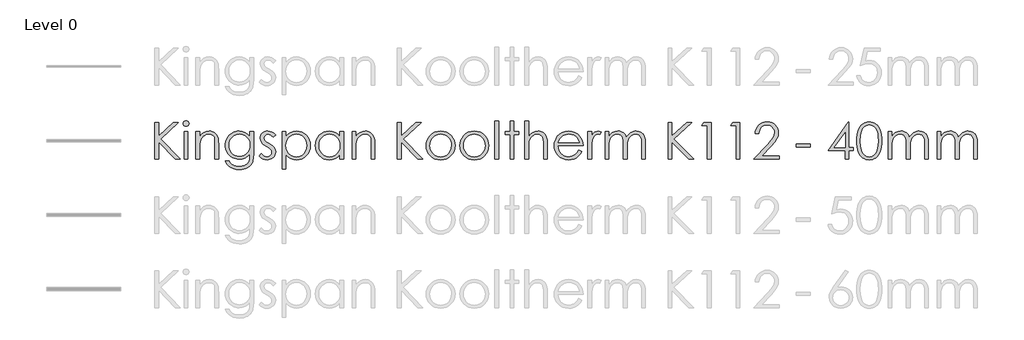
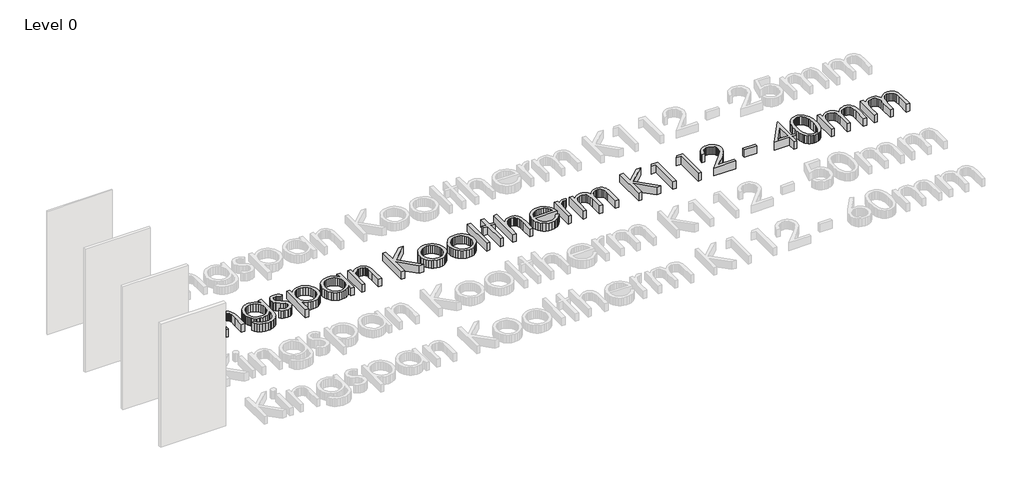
# One storey, part 13 of 14: 1 proxy.
"""IFC4 building model written with IfcOpenShell, lengths in millimetres."""

from ifc_helpers import new_model, si_unit, origin, origin_with_axes, place, context, project, spatial, polyline, outline, extrude, element, save

model = new_model("IFC4")

# Units and contexts
model_context = context("Model", 3, world=origin())
ifc_project = project(units=[si_unit("LENGTHUNIT", "METRE", prefix="MILLI")], contexts=[model_context])

# Site, building, storey
site = spatial("IfcSite", under=ifc_project)
building = spatial("IfcBuilding", under=site)
storey = spatial("IfcBuildingStorey", under=building, Name="Level 0", Elevation=0.0)

# Proxy
placement = place(None, origin())
element("IfcBuildingElementProxy", 1, Name="600mm KI_CenturyGothic", ObjectType="600mm KI_CenturyGothic", at=placement, inside=storey, context=model_context, shape_type="SweptSolid", body=[
    extrude(outline(polyline([(-3852.2663848, 4700.8965983), (-3792.944575, 4700.8965983), (-3792.944575, 4481.683973), (-3555.1938841, 4700.8965983), (-3471.6181051, 4700.8965983), (-3760.9664119, 4433.9484541), (-3441.9572002, 4107.6785001), (-3520.8984627, 4107.6785001), (-3792.944575, 4385.9039675), (-3792.944575, 4107.6785001), (-3852.2663848, 4107.6785001), (-3852.2663848, 4700.8965983)])), origin_with_axes(), (0.0, 0.0, 1.0), 150.0),
    extrude(outline(polyline([(-3348.1854852, 4730.5575033), (-3329.145347, 4727.2747208), (-3313.1176445, 4717.4263735), (-3302.226531, 4702.9821307), (-3298.5961598, 4685.911662), (-3302.226531, 4669.0729191), (-3313.1176445, 4654.7059183), (-3329.145347, 4644.857571), (-3348.1854852, 4641.5747885), (-3366.9938975, 4644.857571), (-3382.9443581, 4654.7059183), (-3393.8354717, 4669.0729191), (-3397.4658428, 4685.911662), (-3393.8354717, 4702.9821307), (-3382.9443581, 4717.4263735), (-3366.9938975, 4727.2747208), (-3348.1854852, 4730.5575033)])), origin_with_axes(), (0.0, 0.0, 1.0), 150.0),
    extrude(outline(polyline([(-3377.6919062, 4552.5920738), (-3318.3700964, 4552.5920738), (-3318.3700964, 4107.6785001), (-3377.6919062, 4107.6785001), (-3377.6919062, 4552.5920738)])), origin_with_axes(), (0.0, 0.0, 1.0), 150.0),
    extrude(outline(polyline([(-3189.8395084, 4552.5920738), (-3130.5176986, 4552.5920738), (-3130.5176986, 4473.4963274), (-3096.9946967, 4513.0055796), (-3060.0730495, 4540.696815), (-3019.7141359, 4557.0334853), (-2975.879335, 4562.4790421), (-2953.4357238, 4560.9004099), (-2932.2955704, 4556.1645135), (-2912.4588747, 4548.2713528), (-2893.9256368, 4537.2209277), (-2877.212412, 4523.4960006), (-2862.835756, 4507.5793333), (-2841.0921499, 4469.1707787), (-2833.6238199, 4444.7912914), (-2828.2892984, 4414.4448643), (-2824.0216812, 4335.8511905), (-2824.0216812, 4107.6785001), (-2883.343491, 4107.6785001), (-2883.343491, 4320.8662542), (-2883.343491, 4423.907002), (-2884.7290183, 4444.7043943), (-2889.8125035, 4462.7596977), (-2898.2849788, 4478.0729123), (-2910.1464442, 4490.644038), (-2924.7403432, 4500.4441091), (-2941.4101193, 4507.4441599), (-2980.977303, 4513.0442006), (-3005.3471351, 4510.8862539), (-3028.4038541, 4504.4124138), (-3050.1474602, 4493.6226803), (-3070.5779533, 4478.5170534), (-3088.6622225, 4460.2348518), (-3103.3671568, 4439.915394), (-3114.6927562, 4417.55868), (-3122.6390208, 4393.1647099), (-3128.5480292, 4346.0857475), (-3130.5176986, 4271.5858965), (-3130.5176986, 4107.6785001), (-3189.8395084, 4107.6785001), (-3189.8395084, 4552.5920738)])), origin_with_axes(), (0.0, 0.0, 1.0), 150.0),
    extrude(outline(polyline([(-2319.7862977, 4552.5920738), (-2260.4644879, 4552.5920738), (-2260.4644879, 4201.604699), (-2264.5196897, 4121.3503235), (-2269.588692, 4090.5500999), (-2276.6852953, 4065.9678526), (-2289.9371156, 4037.3545415), (-2307.2924139, 4012.2267729), (-2328.7511904, 3990.5845469), (-2354.3134448, 3972.4278634), (-2383.3226209, 3958.0656902), (-2415.122162, 3947.8069951), (-2449.7120682, 3941.651778), (-2487.0923395, 3939.6000389), (-2541.0458345, 3943.6166198), (-2589.206184, 3955.6663624), (-2630.260275, 3974.4940853), (-2662.8949946, 3998.8446068), (-2690.2000204, 4032.1938144), (-2715.2650299, 4078.0175952), (-2655.94322, 4078.0175952), (-2642.4355358, 4056.848476), (-2627.0933555, 4038.6048954), (-2609.9166791, 4023.2868532), (-2590.9055067, 4010.8943494), (-2569.7894914, 4001.3308318), (-2546.2982864, 3994.4997477), (-2492.1903075, 3989.0348805), (-2438.5071593, 3994.3645743), (-2415.083541, 4001.0266916), (-2393.93856, 4010.3536559), (-2359.6624492, 4034.3952097), (-2336.8567664, 4063.8823202), (-2329.3884364, 4082.5217658), (-2324.0539149, 4106.2302137), (-2319.7862977, 4168.8541165), (-2319.7862977, 4191.5632468), (-2354.757586, 4155.7809182), (-2396.6420279, 4129.3834852), (-2443.392712, 4113.1047464), (-2492.9627269, 4107.6785001), (-2522.4063889, 4109.5757553), (-2550.9521133, 4115.2675207), (-2578.5999001, 4124.7537964), (-2605.3497494, 4138.0345825), (-2630.1540674, 4154.5257366), (-2651.9652601, 4173.6431168), (-2670.7833277, 4195.3867228), (-2686.6082702, 4219.7565549), (-2699.1456025, 4246.0719183), (-2708.1008399, 4273.6521184), (-2713.4739824, 4302.4971553), (-2715.2650299, 4332.607029), (-2713.3967404, 4362.8955247), (-2707.7918722, 4392.1219437), (-2698.4504251, 4420.286286), (-2685.3723991, 4447.3885517), (-2668.9971079, 4472.5742517), (-2649.7638648, 4494.9888971), (-2627.67267, 4514.632488), (-2602.7235235, 4531.5050242), (-2575.9833294, 4545.056157), (-2548.5189922, 4554.7355376), (-2520.3305117, 4560.543166), (-2491.4178881, 4562.4790421), (-2444.5320306, 4557.5355579), (-2400.8903346, 4542.7051055), (-2359.6045177, 4516.1338782), (-2319.7862977, 4475.9680694), (-2319.7862977, 4552.5920738)]), holes=[polyline([(-2484.1571458, 4513.0442006), (-2529.0154023, 4507.0193293), (-2570.5908765, 4488.9447153), (-2606.2187212, 4460.2300242), (-2633.2340897, 4422.2849212), (-2650.2659375, 4378.0059792), (-2655.94322, 4330.2897708), (-2653.0080263, 4294.3770964), (-2644.2024452, 4261.7182387), (-2629.5264766, 4232.3131977), (-2608.9801206, 4206.1619734), (-2583.7606272, 4184.703197), (-2555.0652466, 4169.3754996), (-2522.8939786, 4160.1788811), (-2487.2468234, 4157.1133416), (-2451.3244937, 4160.154743), (-2419.1001219, 4169.2789472), (-2390.573708, 4184.4859541), (-2365.7452519, 4205.7757637), (-2345.6382095, 4232.0187128), (-2331.2760363, 4262.0851379), (-2322.6587323, 4295.975039), (-2319.7862977, 4333.6884162), (-2325.0773706, 4382.3894593), (-2340.9505892, 4425.6063246), (-2366.4983608, 4461.8327944), (-2400.8130926, 4489.5626508), (-2440.9982119, 4507.1738131), (-2484.1571458, 4513.0442006)])]), origin_with_axes(), (0.0, 0.0, 1.0), 150.0),
    extrude(outline(polyline([(-1904.5336289, 4501.3034257), (-1940.9918246, 4463.609359), (-1962.9575012, 4485.2371022), (-1984.6721416, 4500.6854902), (-2006.1357456, 4509.954523), (-2027.3483133, 4513.0442006), (-2052.181597, 4508.3710632), (-2073.2300256, 4494.3516511), (-2087.5970264, 4474.1142629), (-2092.3860267, 4450.787197), (-2088.4466878, 4429.2366958), (-2076.628671, 4408.7675817), (-2052.0657341, 4386.599145), (-2010.2006027, 4360.877579), (-1958.3326401, 4328.0111336), (-1939.8428507, 4312.1861912), (-1926.315856, 4296.7667689), (-1909.9791857, 4264.0934284), (-1904.5336289, 4227.5579908), (-1906.9474396, 4201.4115941), (-1914.1888714, 4177.3507299), (-1926.2579245, 4155.375398), (-1943.1545989, 4135.4855985), (-1963.6719892, 4118.9944443), (-1986.6031901, 4107.2150485), (-2011.9482016, 4100.147411), (-2039.7070237, 4097.7915318), (-2077.4397114, 4101.6729393), (-2113.3958344, 4113.3171617), (-2145.4512394, 4131.7972958), (-2171.4817731, 4156.1864383), (-2135.7959969, 4196.6612148), (-2114.0041146, 4175.0334717), (-2091.5749863, 4159.5850837), (-2068.5086121, 4150.3160509), (-2044.8049918, 4147.2263733), (-2013.637869, 4152.8650349), (-1987.4914724, 4169.7810198), (-1969.7644472, 4194.3439566), (-1963.8554388, 4222.9234744), (-1967.7561567, 4246.7139919), (-1979.4583106, 4267.7237995), (-2005.0253927, 4289.4287846), (-2050.2119275, 4316.2317378), (-2099.762632, 4346.8967879), (-2117.441381, 4362.0555186), (-2130.3890611, 4377.0983864), (-2146.3781427, 4409.2310334), (-2151.7078365, 4445.689229), (-2149.5305794, 4469.7356104), (-2142.9988078, 4491.6674937), (-2132.1125219, 4511.4848789), (-2116.8717217, 4529.187766), (-2098.309518, 4543.7526993), (-2077.4590218, 4554.1562231), (-2054.3202332, 4560.3983373), (-2028.8931521, 4562.4790421), (-1997.9481, 4558.6555661), (-1966.9064954, 4547.185138), (-1935.7683384, 4528.0677579), (-1904.5336289, 4501.3034257)])), origin_with_axes(), (0.0, 0.0, 1.0), 150.0),
    extrude(outline(polyline([(-1795.7769776, 4552.5920738), (-1736.4551678, 4552.5920738), (-1736.4551678, 4471.4880369), (-1700.9238754, 4511.7310876), (-1660.4490989, 4540.0788795), (-1614.9922173, 4556.8790014), (-1564.5146096, 4562.4790421), (-1520.0618732, 4558.2403906), (-1478.9305402, 4545.5244363), (-1441.1206107, 4524.331179), (-1406.6320845, 4494.6606189), (-1377.9077381, 4459.0231189), (-1357.3903478, 4419.929042), (-1345.0799137, 4377.3783884), (-1340.9764356, 4331.371158), (-1345.0412927, 4284.4708176), (-1357.235864, 4241.2491246), (-1377.5601494, 4201.706079), (-1406.014149, 4165.8416808), (-1440.2130179, 4136.0697406), (-1477.7719111, 4114.8040691), (-1518.6908288, 4102.0446661), (-1562.9697708, 4097.7915318), (-1612.6170277, 4103.256399), (-1658.0545988, 4119.6510008), (-1699.3211052, 4146.8980951), (-1736.4551678, 4184.92044), (-1736.4551678, 3949.4870072), (-1795.7769776, 3949.4870072), (-1795.7769776, 4552.5920738)]), holes=[polyline([(-1568.5311905, 4513.0442006), (-1602.5852307, 4509.7469353), (-1633.8392507, 4499.8551393), (-1662.2932503, 4483.3688128), (-1687.9472295, 4460.2879556), (-1709.1694525, 4432.3022353), (-1724.3281832, 4401.1013192), (-1733.4234216, 4366.6852074), (-1736.4551678, 4329.0538998), (-1731.048232, 4280.1983728), (-1714.8274246, 4236.5180558), (-1688.5265441, 4199.6736505), (-1652.8793888, 4171.3258586), (-1611.4390881, 4153.2512446), (-1567.7587711, 4147.2263733), (-1525.0632888, 4153.2898656), (-1485.0326535, 4171.4803424), (-1450.2544701, 4200.5812433), (-1423.3163435, 4239.3760076), (-1406.05277, 4284.0411593), (-1400.2982454, 4330.7532225), (-1405.9948385, 4377.6970114), (-1423.0846177, 4422.1304373), (-1449.8103289, 4460.4810605), (-1484.414718, 4489.1764411), (-1524.7157001, 4507.0772607), (-1568.5311905, 4513.0442006)])]), origin_with_axes(), (0.0, 0.0, 1.0), 150.0),
    extrude(outline(polyline([(-807.0801472, 4552.5920738), (-807.0801472, 4107.6785001), (-866.401957, 4107.6785001), (-866.401957, 4183.5300851), (-903.4780882, 4145.6815345), (-944.8797679, 4118.9558233), (-990.4525125, 4103.0826047), (-1040.0418379, 4097.7915318), (-1084.3159523, 4102.0446661), (-1125.2203871, 4114.8040691), (-1162.7551422, 4136.0697406), (-1196.9202178, 4165.8416808), (-1225.340424, 4201.706079), (-1245.6405713, 4241.2491246), (-1257.8206597, 4284.4708176), (-1261.8806892, 4331.371158), (-1257.7820388, 4377.3783884), (-1245.4860875, 4419.929042), (-1224.9928353, 4459.0231189), (-1196.3022822, 4494.6606189), (-1161.8475494, 4524.331179), (-1124.061758, 4545.5244363), (-1082.9449079, 4558.2403906), (-1038.4969991, 4562.4790421), (-987.7490446, 4556.8790014), (-942.0990581, 4540.0788795), (-921.2051134, 4527.3918909), (-901.6242816, 4511.7310876), (-866.401957, 4471.4880369), (-866.401957, 4552.5920738), (-807.0801472, 4552.5920738)]), holes=[polyline([(-1034.3259343, 4513.0442006), (-1078.1414247, 4507.0772607), (-1118.4424068, 4489.1764411), (-1153.0467959, 4460.4810605), (-1179.7725071, 4422.1304373), (-1196.8622863, 4377.6970114), (-1202.5588794, 4330.7532225), (-1196.8043548, 4284.0411593), (-1179.5407813, 4239.3760076), (-1152.6026548, 4200.5812433), (-1117.8244713, 4171.4803424), (-1077.6779731, 4153.2898656), (-1034.6349021, 4147.2263733), (-991.0125165, 4153.2512446), (-949.7460102, 4171.3258586), (-914.2726493, 4199.6736505), (-888.0297002, 4236.5180558), (-871.8088928, 4280.1983728), (-866.401957, 4329.0538998), (-869.4337032, 4366.6852074), (-878.5289416, 4401.1013192), (-893.6876723, 4432.3022353), (-914.9098953, 4460.2879556), (-940.5638746, 4483.3688128), (-969.0178742, 4499.8551393), (-1000.2718941, 4509.7469353), (-1034.3259343, 4513.0442006)])]), origin_with_axes(), (0.0, 0.0, 1.0), 150.0),
    extrude(outline(polyline([(-668.662591, 4552.5920738), (-609.3407811, 4552.5920738), (-609.3407811, 4473.4963274), (-575.8177792, 4513.0055796), (-538.896132, 4540.696815), (-498.5372184, 4557.0334853), (-454.7024175, 4562.4790421), (-432.2588064, 4560.9004099), (-411.1186529, 4556.1645135), (-391.2819572, 4548.2713528), (-372.7487193, 4537.2209277), (-356.0354946, 4523.4960006), (-341.6588385, 4507.5793333), (-319.9152324, 4469.1707787), (-312.4469024, 4444.7912914), (-307.1123809, 4414.4448643), (-302.8447637, 4335.8511905), (-302.8447637, 4107.6785001), (-362.1665735, 4107.6785001), (-362.1665735, 4320.8662542), (-362.1665735, 4423.907002), (-363.5521008, 4444.7043943), (-368.635586, 4462.7596977), (-377.1080613, 4478.0729123), (-388.9695267, 4490.644038), (-403.5634257, 4500.4441091), (-420.2332018, 4507.4441599), (-459.8003855, 4513.0442006), (-484.1702176, 4510.8862539), (-507.2269366, 4504.4124138), (-528.9705427, 4493.6226803), (-549.4010358, 4478.5170534), (-567.485305, 4460.2348518), (-582.1902393, 4439.915394), (-593.5158387, 4417.55868), (-601.4621033, 4393.1647099), (-607.3711117, 4346.0857475), (-609.3407811, 4271.5858965), (-609.3407811, 4107.6785001), (-668.662591, 4107.6785001), (-668.662591, 4552.5920738)])), origin_with_axes(), (0.0, 0.0, 1.0), 150.0),
    extrude(outline(polyline([(62.9730635, 4700.8965983), (122.2948734, 4700.8965983), (122.2948734, 4481.683973), (360.0455643, 4700.8965983), (443.6213432, 4700.8965983), (154.2730365, 4433.9484541), (473.2822481, 4107.6785001), (394.3409856, 4107.6785001), (122.2948734, 4385.9039675), (122.2948734, 4107.6785001), (62.9730635, 4107.6785001), (62.9730635, 4700.8965983)])), origin_with_axes(), (0.0, 0.0, 1.0), 150.0),
    extrude(outline(polyline([(760.1588128, 4562.4790421), (809.4681362, 4557.8541809), (854.3553585, 4543.9795975), (894.8204798, 4520.8552917), (930.8635, 4488.4812637), (957.7630055, 4453.2492839), (976.9769381, 4414.908316), (988.5052976, 4373.45836), (992.3480841, 4328.8994159), (988.283227, 4284.0846079), (976.0886558, 4242.1760279), (955.7643703, 4203.1736759), (927.3103707, 4167.0775519), (892.4742558, 4136.7649181), (853.0036246, 4115.1130368), (808.8984769, 4102.1219081), (760.1588128, 4097.7915318), (711.2839754, 4102.1219081), (667.0822753, 4115.1130368), (627.5537126, 4136.7649181), (592.6982872, 4167.0775519), (564.2442876, 4203.1736759), (543.9200022, 4242.1760279), (531.7254309, 4284.0846079), (527.6605738, 4328.8994159), (531.5033603, 4373.2652551), (543.0317198, 4414.5993482), (562.2456524, 4452.9016951), (589.145158, 4488.1722959), (625.2074886, 4520.6814974), (665.7305413, 4543.9023555), (710.7143161, 4557.8348705), (760.1588128, 4562.4790421)]), holes=[polyline([(760.004329, 4513.0442006), (725.7282181, 4509.6696933), (693.9624704, 4499.5461716), (664.7070856, 4482.6736353), (637.962064, 4459.0520846), (615.6584538, 4430.6415336), (599.7273037, 4399.4019965), (590.1686137, 4365.3334734), (586.9823836, 4328.4359643), (592.7948396, 4280.7004454), (610.2322075, 4236.3635719), (637.5758543, 4198.5729529), (673.1071466, 4170.4761972), (714.6439998, 4153.0388293), (760.004329, 4147.2263733), (805.3646581, 4153.0388293), (846.9015113, 4170.4761972), (882.4328037, 4198.5729529), (909.7764504, 4236.3635719), (927.2138183, 4280.7004454), (933.0262743, 4328.4359643), (929.8255614, 4365.3334734), (920.2234227, 4399.4019965), (904.2198583, 4430.6415336), (881.8148681, 4459.0520846), (854.9974321, 4482.6736353), (825.7565303, 4499.5461716), (794.0921625, 4509.6696933), (760.004329, 4513.0442006)])]), origin_with_axes(), (0.0, 0.0, 1.0), 150.0),
    extrude(outline(polyline([(1303.9420695, 4562.4790421), (1353.2513929, 4557.8541809), (1398.1386152, 4543.9795975), (1438.6037365, 4520.8552917), (1474.6467567, 4488.4812637), (1501.5462622, 4453.2492839), (1520.7601948, 4414.908316), (1532.2885543, 4373.45836), (1536.1313408, 4328.8994159), (1532.0664837, 4284.0846079), (1519.8719125, 4242.1760279), (1499.547627, 4203.1736759), (1471.0936274, 4167.0775519), (1436.2575126, 4136.7649181), (1396.7868813, 4115.1130368), (1352.6817336, 4102.1219081), (1303.9420695, 4097.7915318), (1255.0672321, 4102.1219081), (1210.865532, 4115.1130368), (1171.3369693, 4136.7649181), (1136.4815439, 4167.0775519), (1108.0275443, 4203.1736759), (1087.7032589, 4242.1760279), (1075.5086876, 4284.0846079), (1071.4438305, 4328.8994159), (1075.286617, 4373.2652551), (1086.8149766, 4414.5993482), (1106.0289091, 4452.9016951), (1132.9284147, 4488.1722959), (1168.9907453, 4520.6814974), (1209.5137981, 4543.9023555), (1254.4975728, 4557.8348705), (1303.9420695, 4562.4790421)]), holes=[polyline([(1303.7875857, 4513.0442006), (1269.5114748, 4509.6696933), (1237.7457271, 4499.5461716), (1208.4903423, 4482.6736353), (1181.7453207, 4459.0520846), (1159.4417105, 4430.6415336), (1143.5105604, 4399.4019965), (1133.9518704, 4365.3334734), (1130.7656404, 4328.4359643), (1136.5780963, 4280.7004454), (1154.0154643, 4236.3635719), (1181.359111, 4198.5729529), (1216.8904033, 4170.4761972), (1258.4272565, 4153.0388293), (1303.7875857, 4147.2263733), (1349.1479149, 4153.0388293), (1390.684768, 4170.4761972), (1426.2160604, 4198.5729529), (1453.5597071, 4236.3635719), (1470.997075, 4280.7004454), (1476.809531, 4328.4359643), (1473.6088181, 4365.3334734), (1464.0066795, 4399.4019965), (1448.003115, 4430.6415336), (1425.5981249, 4459.0520846), (1398.7806889, 4482.6736353), (1369.539787, 4499.5461716), (1337.8754193, 4509.6696933), (1303.7875857, 4513.0442006)])]), origin_with_axes(), (0.0, 0.0, 1.0), 150.0),
    extrude(outline(polyline([(1635.0010238, 4720.6705349), (1694.3228337, 4720.6705349), (1694.3228337, 4107.6785001), (1635.0010238, 4107.6785001), (1635.0010238, 4720.6705349)])), origin_with_axes(), (0.0, 0.0, 1.0), 150.0),
    extrude(outline(polyline([(1882.1752314, 4720.6705349), (1941.4970413, 4720.6705349), (1941.4970413, 4552.5920738), (2020.5927877, 4552.5920738), (2020.5927877, 4503.1572323), (1941.4970413, 4503.1572323), (1941.4970413, 4107.6785001), (1882.1752314, 4107.6785001), (1882.1752314, 4503.1572323), (1803.079485, 4503.1572323), (1803.079485, 4552.5920738), (1882.1752314, 4552.5920738), (1882.1752314, 4720.6705349)])), origin_with_axes(), (0.0, 0.0, 1.0), 150.0),
    extrude(outline(polyline([(2119.4624707, 4720.6705349), (2178.7842806, 4720.6705349), (2178.7842806, 4471.9514886), (2212.5583188, 4511.6538456), (2249.6151394, 4539.9243956), (2289.9161216, 4556.8403805), (2333.4226442, 4562.4790421), (2355.8662553, 4560.9004099), (2377.0064088, 4556.1645135), (2396.8431044, 4548.2713528), (2415.3763424, 4537.2209277), (2432.0895671, 4523.5104834), (2446.4662232, 4507.6372648), (2468.2098293, 4469.4025045), (2475.6781593, 4445.0954316), (2481.0126808, 4414.7345216), (2485.280298, 4335.8511905), (2485.280298, 4107.6785001), (2425.9584882, 4107.6785001), (2425.9584882, 4320.8662542), (2424.5681332, 4385.247411), (2420.3970685, 4423.907002), (2406.879729, 4462.7596977), (2397.1665551, 4478.0729123), (2385.4837117, 4490.644038), (2371.840854, 4500.4441091), (2356.2476374, 4507.4441599), (2319.2101273, 4513.0442006), (2296.3416854, 4510.8862539), (2274.6994594, 4504.4124138), (2254.2834492, 4493.6226803), (2235.0936547, 4478.5170534), (2218.1052556, 4460.2348518), (2204.2934312, 4439.915394), (2193.6581816, 4417.55868), (2186.1995068, 4393.1647099), (2180.6380871, 4346.3174733), (2178.7842806, 4271.5858965), (2178.7842806, 4107.6785001), (2119.4624707, 4107.6785001), (2119.4624707, 4720.6705349)])), origin_with_axes(), (0.0, 0.0, 1.0), 150.0),
    extrude(outline(polyline([(2991.0605203, 4255.9830247), (3038.950523, 4230.8021523), (3013.3255094, 4188.9177104), (2984.0315038, 4155.9547125), (2950.952643, 4130.8703926), (2913.9730643, 4112.6219843), (2872.4941426, 4101.4991449), (2825.9172528, 4097.7915318), (2774.4258447, 4102.2232881), (2728.8627554, 4115.518557), (2689.227985, 4137.6773385), (2655.5215335, 4168.6996326), (2628.6220279, 4205.3026569), (2609.4080954, 4244.2036288), (2597.8797358, 4285.4025485), (2594.0369493, 4328.8994159), (2597.3197318, 4369.7797126), (2607.1680791, 4408.381372), (2623.5819913, 4444.7043943), (2646.5614684, 4478.7487793), (2682.7493173, 4515.3807692), (2724.5758277, 4541.5464764), (2772.0409998, 4557.2459007), (2825.1448334, 4562.4790421), (2879.7935059, 4557.1107273), (2928.6490329, 4541.0057828), (2971.7114143, 4514.1642087), (3008.9806503, 4476.5860049), (3030.4539096, 4444.414737), (3045.9022976, 4408.458614), (3055.3258143, 4368.7176359), (3058.7244596, 4325.1918028), (2653.3587591, 4325.1918028), (2657.095338, 4287.9370497), (2666.6057518, 4254.1871496), (2681.8900007, 4223.9421025), (2702.9480845, 4197.2019084), (2728.3124066, 4175.3376118), (2756.5153699, 4159.7202571), (2787.5569744, 4150.3498443), (2821.4372203, 4147.2263733), (2854.9602222, 4150.238809), (2887.5563208, 4159.2761159), (2917.2944677, 4173.3148385), (2942.2436143, 4191.331521), (2965.725164, 4217.4972281), (2991.0605203, 4255.9830247)]), holes=[polyline([(2999.4026498, 4374.6266443), (2984.9777175, 4417.1483322), (2965.1844704, 4450.1692615), (2939.0766947, 4475.6977226), (2905.7081767, 4495.742006), (2867.7630738, 4508.7186519), (2827.9255433, 4513.0442006), (2795.503239, 4510.3310774), (2765.4368139, 4502.191708), (2737.726268, 4488.6260923), (2712.3716012, 4469.6342304), (2695.8321708, 4451.820308), (2681.4362043, 4430.0477362), (2669.1837016, 4404.316515), (2659.0746627, 4374.6266443), (2999.4026498, 4374.6266443)])]), origin_with_axes(), (0.0, 0.0, 1.0), 150.0),
    extrude(outline(polyline([(3137.820206, 4552.5920738), (3197.1420159, 4552.5920738), (3197.1420159, 4488.1722959), (3222.6897875, 4521.2125357), (3249.589293, 4544.3271862), (3277.7632906, 4557.9410781), (3307.1345382, 4562.4790421), (3330.4616041, 4558.694187), (3355.3335087, 4547.3396219), (3325.8270877, 4505.3200066), (3297.2475699, 4513.0442006), (3270.8308265, 4507.0965712), (3245.3409863, 4489.2536831), (3223.2884125, 4458.8976007), (3207.183468, 4415.4103886), (3199.6523789, 4357.2858288), (3197.1420159, 4259.8451217), (3197.1420159, 4107.6785001), (3137.820206, 4107.6785001), (3137.820206, 4552.5920738)])), origin_with_axes(), (0.0, 0.0, 1.0), 150.0),
    extrude(outline(polyline([(3414.6553185, 4552.5920738), (3473.9771284, 4552.5920738), (3473.9771284, 4476.4315211), (3503.5607913, 4512.9283377), (3533.9168737, 4538.0705891), (3577.3268439, 4556.3769288), (3622.8995884, 4562.4790421), (3653.7384329, 4559.331433), (3682.9165757, 4549.8886059), (3708.6767627, 4535.2126373), (3729.2617397, 4516.365604), (3746.0425511, 4490.9336953), (3760.3902414, 4456.5031006), (3775.16759, 4480.9018983), (3791.6925376, 4502.191708), (3809.965084, 4520.3725296), (3829.9852293, 4535.4443631), (3851.2798666, 4547.2720352), (3873.375889, 4555.7203723), (3896.2732965, 4560.7893747), (3919.9720892, 4562.4790421), (3962.3006723, 4556.6665861), (3981.4952943, 4549.4010161), (3999.3768034, 4539.2292182), (4015.4914031, 4526.46016), (4029.385297, 4511.4028093), (4050.5109676, 4474.4232306), (4057.8103309, 4451.0478886), (4063.0241619, 4422.4780261), (4067.1952266, 4349.7547397), (4067.1952266, 4107.6785001), (4007.8734168, 4107.6785001), (4007.8734168, 4353.3078689), (4005.4209852, 4414.4255538), (3998.0636904, 4452.8727294), (3984.7587663, 4477.3391139), (3964.4634466, 4496.5144254), (3938.3942919, 4508.9117568), (3907.7678627, 4513.0442006), (3888.1194443, 4511.4945341), (3869.3399976, 4506.8455349), (3834.3880198, 4488.2495379), (3805.6540182, 4459.3031209), (3785.8800816, 4422.0531954), (3779.1889985, 4397.8957787), (3774.4096535, 4366.8252084), (3770.5861775, 4283.9446069), (3770.5861775, 4107.6785001), (3711.2643677, 4107.6785001), (3711.2643677, 4338.0139648), (3708.850557, 4406.469634), (3701.6091252, 4448.7016647), (3688.3621325, 4474.9446137), (3667.9316394, 4495.4330383), (3641.6114484, 4508.64141), (3610.6953619, 4513.0442006), (3573.7544042, 4507.0000188), (3539.2465676, 4488.8674734), (3510.2808401, 4460.500371), (3489.9662099, 4423.7525181), (3477.9743988, 4371.9231764), (3473.9771284, 4298.3116077), (3473.9771284, 4107.6785001), (3414.6553185, 4107.6785001), (3414.6553185, 4552.5920738)])), origin_with_axes(), (0.0, 0.0, 1.0), 150.0),
    extrude(outline(polyline([(4433.0130538, 4700.8965983), (4492.3348637, 4700.8965983), (4492.3348637, 4481.683973), (4730.0855546, 4700.8965983), (4813.6613335, 4700.8965983), (4524.3130268, 4433.9484541), (4843.3222385, 4107.6785001), (4764.3809759, 4107.6785001), (4492.3348637, 4385.9039675), (4492.3348637, 4107.6785001), (4433.0130538, 4107.6785001), (4433.0130538, 4700.8965983)])), origin_with_axes(), (0.0, 0.0, 1.0), 150.0),
    extrude(outline(polyline([(5010.6282802, 4700.8965983), (5125.1008351, 4700.8965983), (5125.1008351, 4107.6785001), (5065.7790253, 4107.6785001), (5065.7790253, 4651.4617568), (4976.7963106, 4651.4617568), (5010.6282802, 4700.8965983)])), origin_with_axes(), (0.0, 0.0, 1.0), 150.0),
    extrude(outline(polyline([(5475.3157905, 4700.8965983), (5589.7883454, 4700.8965983), (5589.7883454, 4107.6785001), (5530.4665356, 4107.6785001), (5530.4665356, 4651.4617568), (5441.4838208, 4651.4617568), (5475.3157905, 4700.8965983)])), origin_with_axes(), (0.0, 0.0, 1.0), 150.0),
    extrude(outline(polyline([(5896.2843628, 4522.9311689), (5836.962553, 4522.9311689), (5841.4474131, 4562.1893848), (5852.5847353, 4597.7786086), (5870.3745196, 4629.6988403), (5894.816766, 4657.9500798), (5924.2121517, 4681.0647303), (5956.8613542, 4697.5751949), (5992.7643733, 4707.4814737), (6031.9212092, 4710.7835666), (6070.3925229, 4707.4863013), (6105.0113948, 4697.5945054), (6135.777825, 4681.1081789), (6162.6918135, 4658.0273217), (6184.5561101, 4630.466432), (6200.1734648, 4600.540008), (6209.5438776, 4568.2480495), (6212.6673485, 4533.5905566), (6206.5845458, 4484.7929611), (6188.3361375, 4439.1236641), (6152.5538088, 4387.236391), (6093.869245, 4319.784867), (5941.084688, 4157.1133416), (6222.5543169, 4157.1133416), (6222.5543169, 4107.6785001), (5817.1886164, 4107.6785001), (6043.1985325, 4348.3643848), (6099.9327373, 4413.8848603), (6132.6446988, 4459.9789879), (6148.1703288, 4497.3447763), (6153.3455387, 4536.6802342), (6151.0958672, 4561.2866196), (6144.3468527, 4584.1260957), (6133.0984952, 4605.1986625), (6117.3507947, 4624.5043198), (6098.3396223, 4640.6237471), (6077.3008489, 4652.1376238), (6054.2344746, 4659.0459498), (6029.1404994, 4661.3487251), (6002.8058255, 4659.0749155), (5978.7980651, 4652.2534867), (5957.1172181, 4640.8844387), (5937.7632845, 4624.9677714), (5921.5279943, 4604.9476262), (5909.2030773, 4581.268144), (5900.7885334, 4553.9293249), (5896.2843628, 4522.9311689)])), origin_with_axes(), (0.0, 0.0, 1.0), 150.0),
    extrude(outline(polyline([(6499.3894294, 4354.8527077), (6726.7897004, 4354.8527077), (6726.7897004, 4305.4178662), (6499.3894294, 4305.4178662), (6499.3894294, 4354.8527077)])), origin_with_axes(), (0.0, 0.0, 1.0), 150.0),
    extrude(outline(polyline([(7337.6189609, 4710.7835666), (7349.6687035, 4710.7835666), (7349.6687035, 4295.5308979), (7418.8774816, 4295.5308979), (7418.8774816, 4246.0960564), (7349.6687035, 4246.0960564), (7349.6687035, 4107.6785001), (7290.3468937, 4107.6785001), (7290.3468937, 4246.0960564), (7013.5117812, 4246.0960564), (7337.6189609, 4710.7835666)]), holes=[polyline([(7290.3468937, 4295.5308979), (7290.3468937, 4542.7051055), (7118.0973678, 4295.5308979), (7290.3468937, 4295.5308979)])]), origin_with_axes(), (0.0, 0.0, 1.0), 150.0),
    extrude(outline(polyline([(7478.1992914, 4404.1330653), (7479.7779236, 4458.5644948), (7484.51382, 4506.4593252), (7492.4069808, 4547.8175564), (7503.4574058, 4582.6391884), (7517.3850931, 4612.2807828), (7533.9100406, 4638.0989012), (7553.0322483, 4660.0935436), (7574.7517163, 4678.26471), (7598.4456813, 4692.4917098), (7623.4913804, 4702.6538525), (7649.8888133, 4708.7511381), (7677.6379802, 4710.7835666), (7705.8409435, 4708.7366552), (7732.6728624, 4702.595921), (7758.1337368, 4692.361364), (7782.2235668, 4678.0329841), (7804.4064864, 4659.6156091), (7824.1466297, 4637.1140665), (7841.4439966, 4610.5283563), (7856.2985871, 4579.8584786), (7868.2276392, 4544.3416691), (7876.7483907, 4503.2151637), (7881.8608416, 4456.4789625), (7883.5649919, 4404.1330653), (7881.8849797, 4351.9464797), (7876.8449431, 4305.3792452), (7868.4448822, 4264.4313618), (7856.6847968, 4229.1028296), (7841.9750349, 4198.5777805), (7824.7259442, 4172.0403465), (7804.9375247, 4149.4905277), (7782.6097765, 4130.928324), (7758.3509797, 4116.4309774), (7732.7694148, 4106.0757299), (7705.8650816, 4099.8625813), (7677.6379802, 4097.7915318), (7649.9129514, 4099.7998222), (7623.5879328, 4105.8246936), (7598.6629243, 4115.8661457), (7575.137926, 4129.9241788), (7553.5632867, 4147.9601718), (7534.4893551, 4169.9355036), (7517.9161314, 4195.8501745), (7503.8436155, 4225.7041842), (7492.6242237, 4260.7237487), (7484.6103725, 4302.1350837), (7479.8020617, 4349.9381893), (7478.1992914, 4404.1330653)]), holes=[polyline([(7537.5211013, 4404.2875492), (7541.9045814, 4315.961391), (7547.3839315, 4280.9804475), (7555.0550216, 4252.1209277), (7564.8695756, 4227.8814414), (7576.7793172, 4206.7605985), (7590.7842464, 4188.7583989), (7606.8843633, 4173.8748426), (7642.1839298, 4153.8884906), (7660.586822, 4148.8919027), (7679.4917868, 4147.2263733), (7698.4836487, 4148.8581093), (7716.8382647, 4153.7533172), (7751.6357586, 4173.334149), (7767.3931143, 4188.0101176), (7781.1421796, 4205.9302476), (7792.8829545, 4227.0945392), (7802.6154389, 4251.5029922), (7812.0775766, 4284.8618549), (7818.8362463, 4321.4455687), (7824.2431821, 4404.2875492), (7819.4155608, 4485.8936587), (7813.3810343, 4520.5849449), (7804.9326971, 4551.2017189), (7794.3505514, 4577.864671), (7781.914599, 4600.6944918), (7767.6248402, 4619.6911814), (7751.4812747, 4634.8547397), (7716.413434, 4654.7252288), (7698.1843362, 4659.692851), (7679.4917868, 4661.3487251), (7660.4757867, 4659.692851), (7642.0487564, 4654.7252288), (7606.9616052, 4634.8547397), (7591.0159723, 4620.0435978), (7577.088285, 4602.1041572), (7565.1785434, 4581.0364181), (7555.2867474, 4556.8403805), (7547.5142772, 4527.9856883), (7541.9625128, 4492.9419857), (7537.5211013, 4404.2875492)])]), origin_with_axes(), (0.0, 0.0, 1.0), 150.0),
    extrude(outline(polyline([(7982.4346749, 4552.5920738), (8041.7564848, 4552.5920738), (8041.7564848, 4476.4315211), (8071.3401477, 4512.9283377), (8101.6962301, 4538.0705891), (8145.1062003, 4556.3769288), (8190.6789448, 4562.4790421), (8221.5177893, 4559.331433), (8250.6959321, 4549.8886059), (8276.4561191, 4535.2126373), (8297.0410961, 4516.365604), (8313.8219075, 4490.9336953), (8328.1695978, 4456.5031006), (8342.9469464, 4480.9018983), (8359.471894, 4502.191708), (8377.7444404, 4520.3725296), (8397.7645856, 4535.4443631), (8419.0592229, 4547.2720352), (8441.1552454, 4555.7203723), (8464.0526529, 4560.7893747), (8487.7514456, 4562.4790421), (8530.0800287, 4556.6665861), (8549.2746507, 4549.4010161), (8567.1561598, 4539.2292182), (8583.2707595, 4526.46016), (8597.1646534, 4511.4028093), (8618.290324, 4474.4232306), (8625.5896873, 4451.0478886), (8630.8035182, 4422.4780261), (8634.974583, 4349.7547397), (8634.974583, 4107.6785001), (8575.6527732, 4107.6785001), (8575.6527732, 4353.3078689), (8573.2003416, 4414.4255538), (8565.8430468, 4452.8727294), (8552.5381227, 4477.3391139), (8532.242803, 4496.5144254), (8506.1736483, 4508.9117568), (8475.5472191, 4513.0442006), (8455.8988006, 4511.4945341), (8437.119354, 4506.8455349), (8402.1673762, 4488.2495379), (8373.4333746, 4459.3031209), (8353.659438, 4422.0531954), (8346.9683549, 4397.8957787), (8342.1890099, 4366.8252084), (8338.3655339, 4283.9446069), (8338.3655339, 4107.6785001), (8279.0437241, 4107.6785001), (8279.0437241, 4338.0139648), (8276.6299134, 4406.469634), (8269.3884816, 4448.7016647), (8256.1414889, 4474.9446137), (8235.7109958, 4495.4330383), (8209.3908048, 4508.64141), (8178.4747183, 4513.0442006), (8141.5337606, 4507.0000188), (8107.025924, 4488.8674734), (8078.0601965, 4460.500371), (8057.7455663, 4423.7525181), (8045.7537552, 4371.9231764), (8041.7564848, 4298.3116077), (8041.7564848, 4107.6785001), (7982.4346749, 4107.6785001), (7982.4346749, 4552.5920738)])), origin_with_axes(), (0.0, 0.0, 1.0), 150.0),
    extrude(outline(polyline([(8773.3921393, 4552.5920738), (8832.7139491, 4552.5920738), (8832.7139491, 4476.4315211), (8862.2976121, 4512.9283377), (8892.6536944, 4538.0705891), (8936.0636646, 4556.3769288), (8981.6364092, 4562.4790421), (9012.4752537, 4559.331433), (9041.6533964, 4549.8886059), (9067.4135834, 4535.2126373), (9087.9985604, 4516.365604), (9104.7793718, 4490.9336953), (9119.1270621, 4456.5031006), (9133.9044108, 4480.9018983), (9150.4293583, 4502.191708), (9168.7019047, 4520.3725296), (9188.72205, 4535.4443631), (9210.0166873, 4547.2720352), (9232.1127097, 4555.7203723), (9255.0101172, 4560.7893747), (9278.7089099, 4562.4790421), (9321.037493, 4556.6665861), (9340.232115, 4549.4010161), (9358.1136241, 4539.2292182), (9374.2282238, 4526.46016), (9388.1221177, 4511.4028093), (9409.2477883, 4474.4232306), (9416.5471516, 4451.0478886), (9421.7609826, 4422.4780261), (9425.9320473, 4349.7547397), (9425.9320473, 4107.6785001), (9366.6102375, 4107.6785001), (9366.6102375, 4353.3078689), (9364.1578059, 4414.4255538), (9356.8005111, 4452.8727294), (9343.495587, 4477.3391139), (9323.2002673, 4496.5144254), (9297.1311126, 4508.9117568), (9266.5046834, 4513.0442006), (9246.856265, 4511.4945341), (9228.0768183, 4506.8455349), (9193.1248405, 4488.2495379), (9164.3908389, 4459.3031209), (9144.6169023, 4422.0531954), (9137.9258192, 4397.8957787), (9133.1464742, 4366.8252084), (9129.3229982, 4283.9446069), (9129.3229982, 4107.6785001), (9070.0011884, 4107.6785001), (9070.0011884, 4338.0139648), (9067.5873778, 4406.469634), (9060.3459459, 4448.7016647), (9047.0989532, 4474.9446137), (9026.6684601, 4495.4330383), (9000.3482691, 4508.64141), (8969.4321827, 4513.0442006), (8932.4912249, 4507.0000188), (8897.9833883, 4488.8674734), (8869.0176608, 4460.500371), (8848.7030306, 4423.7525181), (8836.7112195, 4371.9231764), (8832.7139491, 4298.3116077), (8832.7139491, 4107.6785001), (8773.3921393, 4107.6785001), (8773.3921393, 4552.5920738)])), origin_with_axes(), (0.0, 0.0, 1.0), 150.0),
])

save(model, "model.ifc")
